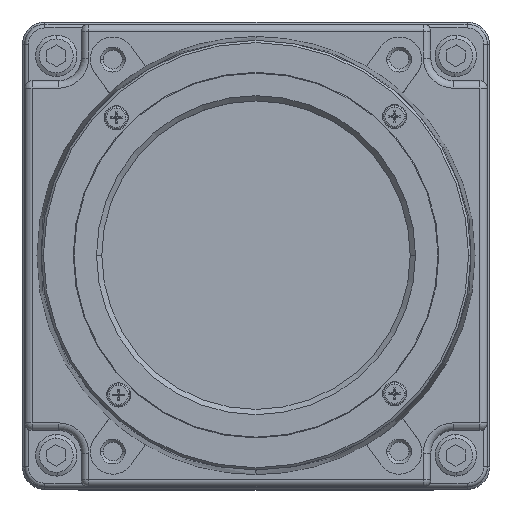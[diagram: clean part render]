
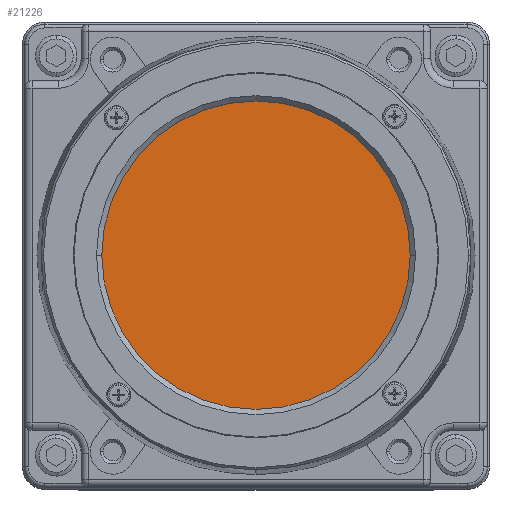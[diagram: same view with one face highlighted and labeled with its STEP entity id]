
A CAD part, top view. The second image highlights one B-rep face of the part: STEP entity #21226.
In plain terms, the highlighted planar face has unit normal (0, 0, 1).
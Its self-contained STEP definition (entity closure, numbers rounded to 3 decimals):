
#3407=CARTESIAN_POINT('',(-26.5,26.5,41.5));
#3408=DIRECTION('',(0.,0.,1.));
#3409=DIRECTION('',(0.,1.,0.));
#3410=AXIS2_PLACEMENT_3D('',#3407,#3408,#3409);
#3412=CARTESIAN_POINT('',(26.5,26.5,41.5));
#3413=DIRECTION('',(0.,0.,1.));
#3414=DIRECTION('',(1.,0.,0.));
#3415=AXIS2_PLACEMENT_3D('',#3412,#3413,#3414);
#3417=DIRECTION('',(0.,1.,0.));
#3418=VECTOR('',#3417,53.);
#3419=CARTESIAN_POINT('',(29.5,-26.5,41.5));
#3420=LINE('',#3419,#3418);
#3421=CARTESIAN_POINT('',(26.5,-26.5,41.5));
#3422=DIRECTION('',(0.,0.,1.));
#3423=DIRECTION('',(0.,-1.,0.));
#3424=AXIS2_PLACEMENT_3D('',#3421,#3422,#3423);
#3426=CARTESIAN_POINT('',(-26.5,-26.5,41.5));
#3427=DIRECTION('',(0.,0.,1.));
#3428=DIRECTION('',(-1.,0.,0.));
#3429=AXIS2_PLACEMENT_3D('',#3426,#3427,#3428);
#3431=CARTESIAN_POINT('',(12.,-26.,41.5));
#3432=DIRECTION('',(0.,0.,-1.));
#3433=DIRECTION('',(-1.,0.,0.));
#3434=AXIS2_PLACEMENT_3D('',#3431,#3432,#3433);
#3436=CARTESIAN_POINT('',(12.,-26.,41.5));
#3437=DIRECTION('',(0.,0.,-1.));
#3438=DIRECTION('',(1.,0.,0.));
#3439=AXIS2_PLACEMENT_3D('',#3436,#3437,#3438);
#3441=CARTESIAN_POINT('',(-26.5,26.5,41.5));
#3442=DIRECTION('',(0.,0.,-1.));
#3443=DIRECTION('',(1.,0.,0.));
#3444=AXIS2_PLACEMENT_3D('',#3441,#3442,#3443);
#3446=CARTESIAN_POINT('',(-26.5,26.5,41.5));
#3447=DIRECTION('',(0.,0.,-1.));
#3448=DIRECTION('',(-1.,0.,0.));
#3449=AXIS2_PLACEMENT_3D('',#3446,#3447,#3448);
#3451=CARTESIAN_POINT('',(26.5,26.5,41.5));
#3452=DIRECTION('',(0.,0.,-1.));
#3453=DIRECTION('',(1.,0.,0.));
#3454=AXIS2_PLACEMENT_3D('',#3451,#3452,#3453);
#3456=CARTESIAN_POINT('',(26.5,26.5,41.5));
#3457=DIRECTION('',(0.,0.,-1.));
#3458=DIRECTION('',(-1.,0.,0.));
#3459=AXIS2_PLACEMENT_3D('',#3456,#3457,#3458);
#3461=CARTESIAN_POINT('',(-26.5,-26.5,41.5));
#3462=DIRECTION('',(0.,0.,-1.));
#3463=DIRECTION('',(1.,0.,0.));
#3464=AXIS2_PLACEMENT_3D('',#3461,#3462,#3463);
#3466=CARTESIAN_POINT('',(-26.5,-26.5,41.5));
#3467=DIRECTION('',(0.,0.,-1.));
#3468=DIRECTION('',(-1.,0.,0.));
#3469=AXIS2_PLACEMENT_3D('',#3466,#3467,#3468);
#3471=CARTESIAN_POINT('',(26.5,-26.5,41.5));
#3472=DIRECTION('',(0.,0.,-1.));
#3473=DIRECTION('',(1.,0.,0.));
#3474=AXIS2_PLACEMENT_3D('',#3471,#3472,#3473);
#3476=CARTESIAN_POINT('',(26.5,-26.5,41.5));
#3477=DIRECTION('',(0.,0.,-1.));
#3478=DIRECTION('',(-1.,0.,0.));
#3479=AXIS2_PLACEMENT_3D('',#3476,#3477,#3478);
#3481=CARTESIAN_POINT('',(12.,26.,41.5));
#3482=DIRECTION('',(0.,0.,-1.));
#3483=DIRECTION('',(-1.,0.,0.));
#3484=AXIS2_PLACEMENT_3D('',#3481,#3482,#3483);
#3486=CARTESIAN_POINT('',(12.,26.,41.5));
#3487=DIRECTION('',(0.,0.,-1.));
#3488=DIRECTION('',(1.,0.,0.));
#3489=AXIS2_PLACEMENT_3D('',#3486,#3487,#3488);
#3499=DIRECTION('',(0.,-1.,0.));
#3500=VECTOR('',#3499,53.);
#3501=CARTESIAN_POINT('',(-29.5,26.5,41.5));
#3502=LINE('',#3501,#3500);
#3515=DIRECTION('',(1.,0.,0.));
#3516=VECTOR('',#3515,53.);
#3517=CARTESIAN_POINT('',(-26.5,-29.5,41.5));
#3518=LINE('',#3517,#3516);
#3547=DIRECTION('',(-1.,0.,0.));
#3548=VECTOR('',#3547,53.);
#3549=CARTESIAN_POINT('',(26.5,29.5,41.5));
#3550=LINE('',#3549,#3548);
#11455=CARTESIAN_POINT('',(29.5,26.5,41.5));
#11457=VERTEX_POINT('',#11455);
#11459=CARTESIAN_POINT('',(29.5,-26.5,41.5));
#11460=VERTEX_POINT('',#11459);
#11463=CARTESIAN_POINT('',(26.5,29.5,41.5));
#11464=VERTEX_POINT('',#11463);
#11467=CARTESIAN_POINT('',(-26.5,29.5,41.5));
#11468=CARTESIAN_POINT('',(-29.5,26.5,41.5));
#11469=VERTEX_POINT('',#11467);
#11470=VERTEX_POINT('',#11468);
#11471=CARTESIAN_POINT('',(26.5,-29.5,41.5));
#11472=VERTEX_POINT('',#11471);
#11473=CARTESIAN_POINT('',(-26.5,-29.5,41.5));
#11474=VERTEX_POINT('',#11473);
#11475=CARTESIAN_POINT('',(-29.5,-26.5,41.5));
#11476=VERTEX_POINT('',#11475);
#11477=CARTESIAN_POINT('',(9.5,-26.,41.5));
#11478=CARTESIAN_POINT('',(14.5,-26.,41.5));
#11479=VERTEX_POINT('',#11477);
#11480=VERTEX_POINT('',#11478);
#11481=CARTESIAN_POINT('',(-24.85,26.5,41.5));
#11482=CARTESIAN_POINT('',(-28.15,26.5,41.5));
#11483=VERTEX_POINT('',#11481);
#11484=VERTEX_POINT('',#11482);
#11485=CARTESIAN_POINT('',(28.15,26.5,41.5));
#11486=CARTESIAN_POINT('',(24.85,26.5,41.5));
#11487=VERTEX_POINT('',#11485);
#11488=VERTEX_POINT('',#11486);
#11489=CARTESIAN_POINT('',(-24.85,-26.5,41.5));
#11490=CARTESIAN_POINT('',(-28.15,-26.5,41.5));
#11491=VERTEX_POINT('',#11489);
#11492=VERTEX_POINT('',#11490);
#11493=CARTESIAN_POINT('',(28.15,-26.5,41.5));
#11494=CARTESIAN_POINT('',(24.85,-26.5,41.5));
#11495=VERTEX_POINT('',#11493);
#11496=VERTEX_POINT('',#11494);
#11497=CARTESIAN_POINT('',(9.5,26.,41.5));
#11498=CARTESIAN_POINT('',(14.5,26.,41.5));
#11499=VERTEX_POINT('',#11497);
#11500=VERTEX_POINT('',#11498);
#21168=CARTESIAN_POINT('',(0.,0.,41.5));
#21169=DIRECTION('',(0.,0.,1.));
#21170=DIRECTION('',(1.,0.,0.));
#21171=AXIS2_PLACEMENT_3D('',#21168,#21169,#21170);
#21172=PLANE('',#21171);
#21174=ORIENTED_EDGE('',*,*,#21173,.F.);
#21176=ORIENTED_EDGE('',*,*,#21175,.F.);
#21178=ORIENTED_EDGE('',*,*,#21177,.F.);
#21180=ORIENTED_EDGE('',*,*,#21179,.F.);
#21182=ORIENTED_EDGE('',*,*,#21181,.F.);
#21184=ORIENTED_EDGE('',*,*,#21183,.F.);
#21186=ORIENTED_EDGE('',*,*,#21185,.F.);
#21188=ORIENTED_EDGE('',*,*,#21187,.F.);
#21189=EDGE_LOOP('',(#21174,#21176,#21178,#21180,#21182,#21184,#21186,#21188));
#21190=FACE_OUTER_BOUND('',#21189,.F.);
#21192=ORIENTED_EDGE('',*,*,#21191,.F.);
#21194=ORIENTED_EDGE('',*,*,#21193,.F.);
#21195=EDGE_LOOP('',(#21192,#21194));
#21196=FACE_BOUND('',#21195,.F.);
#21198=ORIENTED_EDGE('',*,*,#21197,.F.);
#21200=ORIENTED_EDGE('',*,*,#21199,.F.);
#21201=EDGE_LOOP('',(#21198,#21200));
#21202=FACE_BOUND('',#21201,.F.);
#21204=ORIENTED_EDGE('',*,*,#21203,.F.);
#21206=ORIENTED_EDGE('',*,*,#21205,.F.);
#21207=EDGE_LOOP('',(#21204,#21206));
#21208=FACE_BOUND('',#21207,.F.);
#21210=ORIENTED_EDGE('',*,*,#21209,.F.);
#21212=ORIENTED_EDGE('',*,*,#21211,.F.);
#21213=EDGE_LOOP('',(#21210,#21212));
#21214=FACE_BOUND('',#21213,.F.);
#21216=ORIENTED_EDGE('',*,*,#21215,.F.);
#21218=ORIENTED_EDGE('',*,*,#21217,.F.);
#21219=EDGE_LOOP('',(#21216,#21218));
#21220=FACE_BOUND('',#21219,.F.);
#21221=ORIENTED_EDGE('',*,*,#21151,.F.);
#21223=ORIENTED_EDGE('',*,*,#21222,.F.);
#21224=EDGE_LOOP('',(#21221,#21223));
#21225=FACE_BOUND('',#21224,.F.);
#3411=CIRCLE('',#3410,3.);
#3416=CIRCLE('',#3415,3.);
#3425=CIRCLE('',#3424,3.);
#3430=CIRCLE('',#3429,3.);
#3435=CIRCLE('',#3434,2.5);
#3440=CIRCLE('',#3439,2.5);
#3445=CIRCLE('',#3444,1.65);
#3450=CIRCLE('',#3449,1.65);
#3455=CIRCLE('',#3454,1.65);
#3460=CIRCLE('',#3459,1.65);
#3465=CIRCLE('',#3464,1.65);
#3470=CIRCLE('',#3469,1.65);
#3475=CIRCLE('',#3474,1.65);
#3480=CIRCLE('',#3479,1.65);
#3485=CIRCLE('',#3484,2.5);
#3490=CIRCLE('',#3489,2.5);
#21151=EDGE_CURVE('',#11499,#11500,#3485,.T.);
#21173=EDGE_CURVE('',#11469,#11470,#3411,.T.);
#21175=EDGE_CURVE('',#11464,#11469,#3550,.T.);
#21177=EDGE_CURVE('',#11457,#11464,#3416,.T.);
#21179=EDGE_CURVE('',#11460,#11457,#3420,.T.);
#21181=EDGE_CURVE('',#11472,#11460,#3425,.T.);
#21183=EDGE_CURVE('',#11474,#11472,#3518,.T.);
#21185=EDGE_CURVE('',#11476,#11474,#3430,.T.);
#21187=EDGE_CURVE('',#11470,#11476,#3502,.T.);
#21191=EDGE_CURVE('',#11479,#11480,#3435,.T.);
#21193=EDGE_CURVE('',#11480,#11479,#3440,.T.);
#21197=EDGE_CURVE('',#11483,#11484,#3445,.T.);
#21199=EDGE_CURVE('',#11484,#11483,#3450,.T.);
#21203=EDGE_CURVE('',#11487,#11488,#3455,.T.);
#21205=EDGE_CURVE('',#11488,#11487,#3460,.T.);
#21209=EDGE_CURVE('',#11491,#11492,#3465,.T.);
#21211=EDGE_CURVE('',#11492,#11491,#3470,.T.);
#21215=EDGE_CURVE('',#11495,#11496,#3475,.T.);
#21217=EDGE_CURVE('',#11496,#11495,#3480,.T.);
#21222=EDGE_CURVE('',#11500,#11499,#3490,.T.);
#21226=ADVANCED_FACE('',(#21190,#21196,#21202,#21208,#21214,#21220,#21225),
#21172,.T.);
